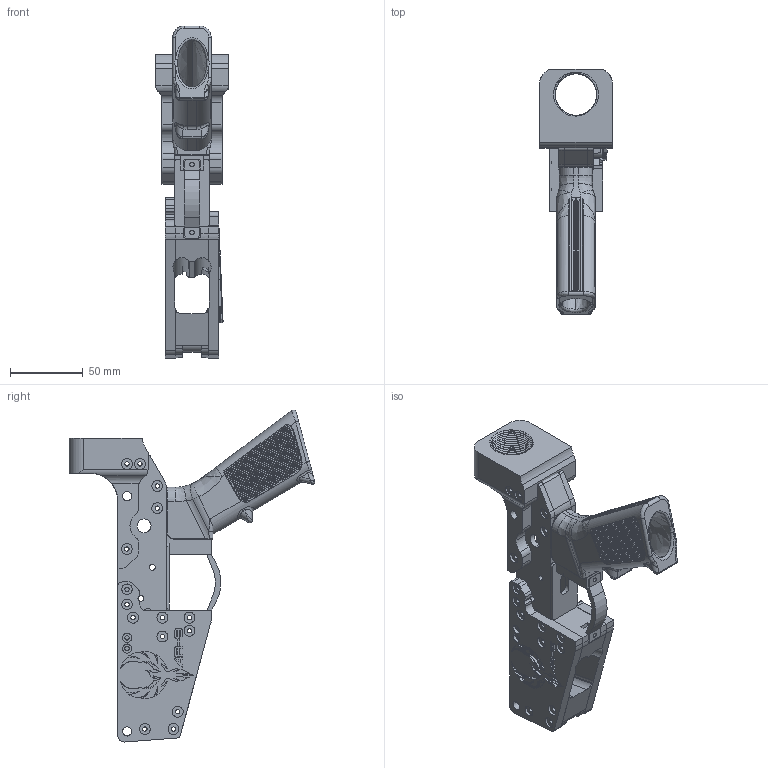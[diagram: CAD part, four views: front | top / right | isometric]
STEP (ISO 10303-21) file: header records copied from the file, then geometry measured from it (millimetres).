
FILE_DESCRIPTION (( 'STEP AP214' ), '1' );
FILE_NAME ('Firebolt_9_Standard.STEP', '2020-12-05T18:58:14', ( '' ), ( '' ), 'SwSTEP 2.0', 'SolidWorks 2020', '' );
FILE_SCHEMA (( 'AUTOMOTIVE_DESIGN' ));
Length unit declared in the file: millimetre
Products named in the file (13): Firebolt_9_Mag_Well_Right; Firebolt_Grip_Part; Mag_Release; Firebolt_9_Standard; Firebolt_Side_Right; Firebolt_Fire_Control_Well_Bottom; Firebolt_Buffer_Tower; Firebolt_Trigger_Guard; Firebolt_9_Mag_Well_Left; Firebolt_9_Mag_Well_Rear; Firebolt_Pistol_Grip; Firebolt_Side_Left; Firebolt_9_Mag_Well_Front
Assembly tree (12 placements, depth 2):
  Firebolt_9_Standard
    Firebolt_Buffer_Tower
    Firebolt_Side_Left
    Firebolt_Side_Right
    Firebolt_Grip_Part
    Firebolt_Pistol_Grip
    Firebolt_Fire_Control_Well_Bottom
    Firebolt_Trigger_Guard
    Firebolt_9_Mag_Well_Rear
    Firebolt_9_Mag_Well_Right
    Firebolt_9_Mag_Well_Left
    Firebolt_9_Mag_Well_Front
    Mag_Release
Bounding box: 50 x 169.01 x 228.64 mm (x, y, z)
Volume: 284624.3 mm3; surface area: 125011.1 mm2
Topology: 12 solids, 12 shells, 8042 faces, 17754 edges, 11276 vertices
Faces by surface type: plane 7279, cylinder 552, bspline 187, cone 15, torus 9
Entity records: 257713 total; most frequent: CARTESIAN_POINT 86952, ORIENTED_EDGE 35488, DIRECTION 30710, EDGE_CURVE 17744, VECTOR 13104, LINE 13104, VERTEX_POINT 11276, EDGE_LOOP 9774
